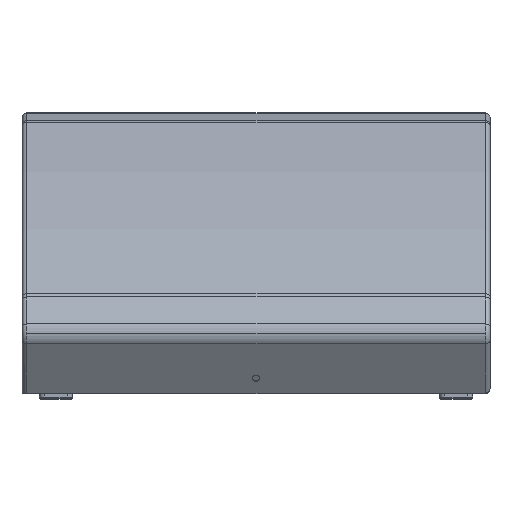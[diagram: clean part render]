
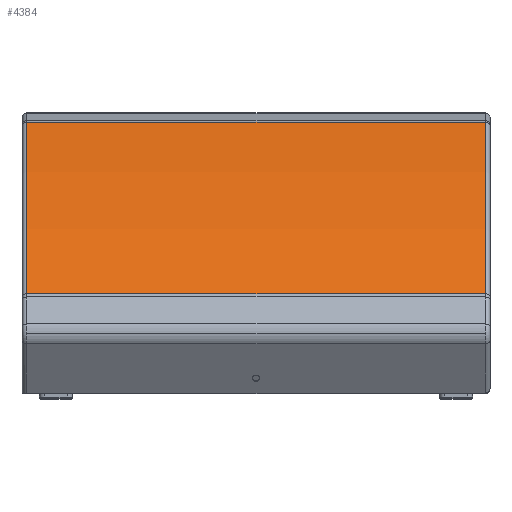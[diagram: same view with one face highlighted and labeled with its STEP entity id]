
A CAD part, top view. The second image highlights one B-rep face of the part: STEP entity #4384.
In plain terms, the highlighted cylindrical face has radius 1500 mm (diameter 3000 mm), a partial arc.
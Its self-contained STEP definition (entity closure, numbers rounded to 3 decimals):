
#277 = DIRECTION ( 'NONE',  ( 1., 0., 0. ) ) ;
#297 = DIRECTION ( 'NONE',  ( -1., 0., 0. ) ) ;
#352 = LINE ( 'NONE', #5626, #4942 ) ;
#441 = ORIENTED_EDGE ( 'NONE', *, *, #3946, .T. ) ;
#449 = DIRECTION ( 'NONE',  ( -1., 0., 0. ) ) ;
#614 = VERTEX_POINT ( 'NONE', #2619 ) ;
#618 = EDGE_CURVE ( 'NONE', #2163, #614, #3564, .T. ) ;
#643 = CARTESIAN_POINT ( 'NONE',  ( -293.65, 348.322, -116.046 ) ) ;
#645 = CIRCLE ( 'NONE', #2431, 1500. ) ;
#1021 = CYLINDRICAL_SURFACE ( 'NONE', #3944, 1500. ) ;
#1195 = CARTESIAN_POINT ( 'NONE',  ( 300., -980.482, -811.947 ) ) ;
#1230 = ORIENTED_EDGE ( 'NONE', *, *, #4662, .F. ) ;
#1570 = CARTESIAN_POINT ( 'NONE',  ( 293.65, 348.322, -116.046 ) ) ;
#1617 = DIRECTION ( 'NONE',  ( 0., 0., 1. ) ) ;
#1723 = CARTESIAN_POINT ( 'NONE',  ( -293.65, -980.482, -811.947 ) ) ;
#1908 = FACE_OUTER_BOUND ( 'NONE', #5167, .T. ) ;
#1978 = LINE ( 'NONE', #2143, #2662 ) ;
#2143 = CARTESIAN_POINT ( 'NONE',  ( 300., 127.928, 198.709 ) ) ;
#2163 = VERTEX_POINT ( 'NONE', #643 ) ;
#2431 = AXIS2_PLACEMENT_3D ( 'NONE', #3318, #449, #2873 ) ;
#2476 = ORIENTED_EDGE ( 'NONE', *, *, #4762, .T. ) ;
#2619 = CARTESIAN_POINT ( 'NONE',  ( -293.65, 127.928, 198.709 ) ) ;
#2662 = VECTOR ( 'NONE', #297, 1000. ) ;
#2873 = DIRECTION ( 'NONE',  ( 0., 0., -1. ) ) ;
#3237 = DIRECTION ( 'NONE',  ( -1., 0., 0. ) ) ;
#3318 = CARTESIAN_POINT ( 'NONE',  ( 293.65, -980.482, -811.947 ) ) ;
#3552 = AXIS2_PLACEMENT_3D ( 'NONE', #1723, #277, #5582 ) ;
#3564 = CIRCLE ( 'NONE', #3552, 1500. ) ;
#3741 = VERTEX_POINT ( 'NONE', #1570 ) ;
#3944 = AXIS2_PLACEMENT_3D ( 'NONE', #1195, #5999, #1617 ) ;
#3946 = EDGE_CURVE ( 'NONE', #3741, #2163, #352, .T. ) ;
#4384 = ADVANCED_FACE ( 'NONE', ( #1908 ), #1021, .T. ) ;
#4509 = ORIENTED_EDGE ( 'NONE', *, *, #618, .T. ) ;
#4538 = CARTESIAN_POINT ( 'NONE',  ( 293.65, 127.928, 198.709 ) ) ;
#4584 = VERTEX_POINT ( 'NONE', #4538 ) ;
#4662 = EDGE_CURVE ( 'NONE', #4584, #614, #1978, .T. ) ;
#4762 = EDGE_CURVE ( 'NONE', #4584, #3741, #645, .T. ) ;
#4942 = VECTOR ( 'NONE', #3237, 1000. ) ;
#5167 = EDGE_LOOP ( 'NONE', ( #1230, #2476, #441, #4509 ) ) ;
#5582 = DIRECTION ( 'NONE',  ( 0., 0., -1. ) ) ;
#5626 = CARTESIAN_POINT ( 'NONE',  ( 300., 348.322, -116.046 ) ) ;
#5999 = DIRECTION ( 'NONE',  ( -1., 0., 0. ) ) ;
